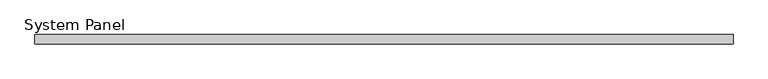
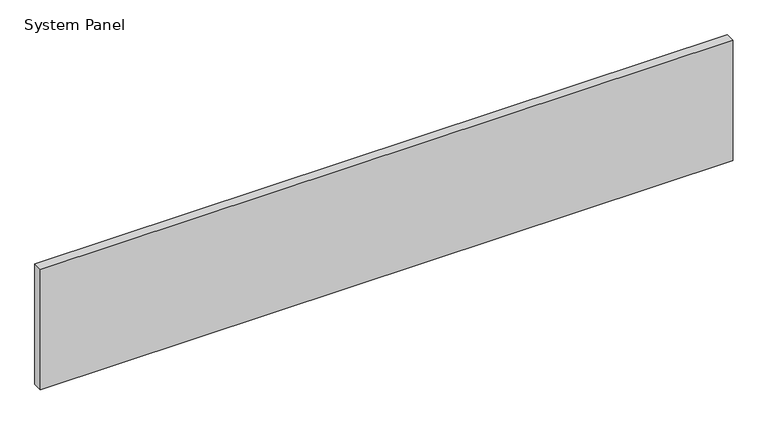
"""IFC4 building model written with IfcOpenShell, lengths in millimetres: plate geometry, System Panel : Inspire 80mm Horizontal - Plain RHEA-PIR."""

from ifc_helpers import new_model, si_unit, origin, origin_with_axes, place, context, project, spatial, polyline, outline, extrude, source, transform, mapped, element, save


def system_panel_50a3a64b(model_context):
    return source(origin(), model_context, "Body", "SweptSolid", [
        extrude(outline(polyline([(2990.0, -80.0), (-2990.0, -80.0), (-2990.0, 0.0), (2990.0, 0.0), (2990.0, -80.0)])), origin_with_axes(), (0.0, 0.0, 1.0), 1100.0),
    ])


if __name__ == "__main__":
    model = new_model("IFC4")
    model_context = context("Model", 3, world=origin())
    ifc_project = project(units=[si_unit("LENGTHUNIT", "METRE", prefix="MILLI")], contexts=[model_context])
    site = spatial("IfcSite", under=ifc_project)
    building = spatial("IfcBuilding", under=site)
    placement = place(None, origin())
    system_panel_shape = system_panel_50a3a64b(model_context)
    element("IfcPlate", 1, ObjectType="System Panel : Inspire 80mm Horizontal - Plain RHEA-PIR", at=placement, inside=building, context=model_context, shape_type="MappedRepresentation", body=[
        mapped(system_panel_shape, transform((0.0, 0.0, 0.0), x_axis=(1.0, 0.0, 0.0), y_axis=(0.0, 1.0, 0.0), z_axis=(0.0, 0.0, 1.0))),
    ])
    save(model, "model.ifc")
